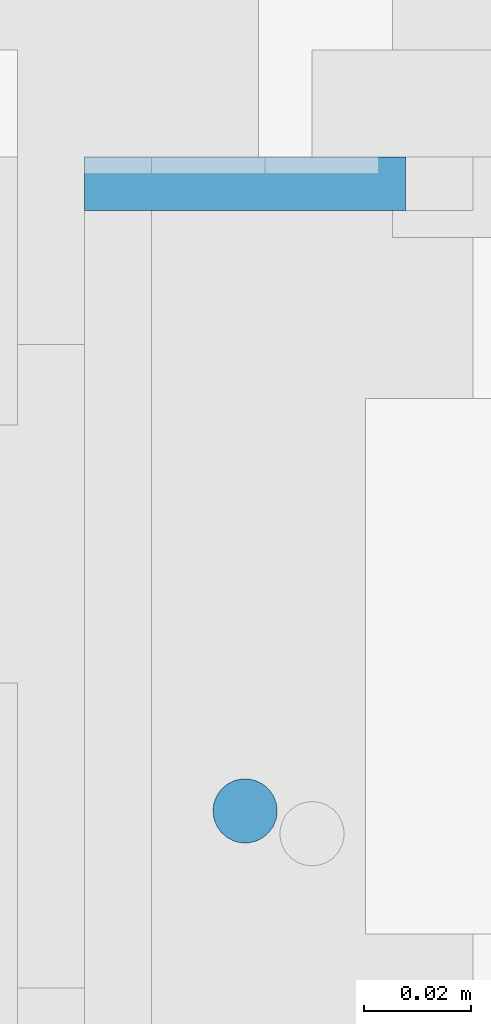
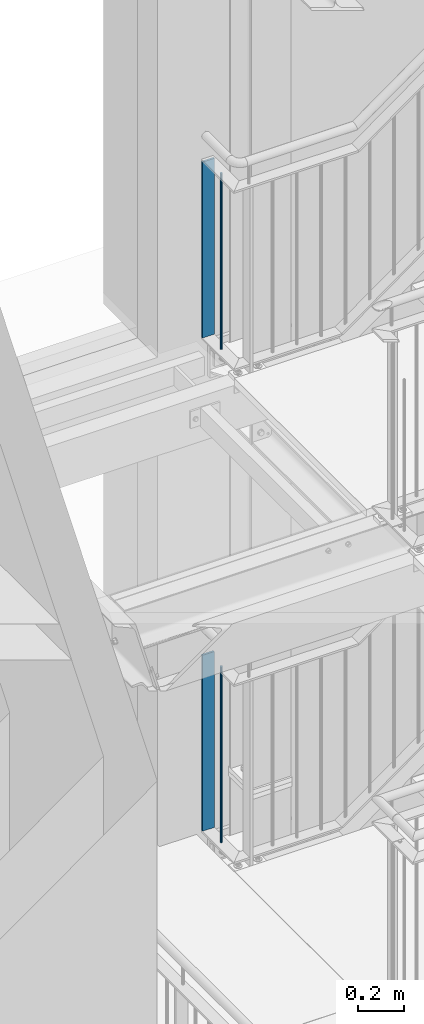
# One storey, part 65 of 831: 4 columns.
"""IFC2X3 building model written with IfcOpenShell, lengths in millimetres."""

import ifcopenshell
import ifcopenshell.guid

model = None  # the IFC model being written
_history = None  # IfcOwnerHistory: only IFC2X3 demands one
_inside = {}  # id of a spatial element -> (the spatial element, [elements in it])
_under = {}  # id of a project, library or spatial element -> (it, [spatial elements below it])
_declared = {}  # id of a project -> (the project, [libraries it declares])
_typed = {}  # id of a type object -> (the type object, [elements of that type])
_made_of = {}  # id of a material, layer set ... -> (it, [elements and type objects made of it])


def new_model(schema):
    """Start an empty IFC model of exactly this schema.

    Asked for "IFC4X3", IfcOpenShell would pick the latest addendum, in which some entities
    have other attributes; the version numbers below select the first issue.
    IFC2X3 requires an IfcOwnerHistory on every rooted entity: one is made here for all.
    """
    global model, _history
    if schema == "IFC4X3":
        model = ifcopenshell.file(schema_version=(4, 3, 0, 0))
    else:
        model = ifcopenshell.file(schema=schema)
    _inside.clear()
    _under.clear()
    _declared.clear()
    _typed.clear()
    _made_of.clear()
    _history = None
    if model.schema == "IFC2X3":
        org = make("IfcOrganization", Name="unknown")
        user = make(
            "IfcPersonAndOrganization",
            ThePerson=make("IfcPerson", FamilyName="unknown"),
            TheOrganization=org,
        )
        app = make(
            "IfcApplication",
            ApplicationDeveloper=org,
            Version="unknown",
            ApplicationFullName="unknown",
            ApplicationIdentifier="unknown",
        )
        _history = make(
            "IfcOwnerHistory",
            OwningUser=user,
            OwningApplication=app,
            ChangeAction="ADDED",
            CreationDate=0,
        )
    return model


def make(cls, **values):
    """One entity of the class cls with the attributes given. An attribute that is None is left unset."""
    return model.create_entity(
        cls, **{name: value for name, value in values.items() if value is not None}
    )


def entity(cls, *values):
    """Any entity or typed value of the class cls, its attributes in the order of the schema. None: left unset."""
    e = model.create_entity(cls)
    for i, value in enumerate(values):
        if value is not None:
            e[i] = value
    return e


def rooted(cls, **values):
    """An entity with a GlobalId (a new one), such as an element, a storey or a relation."""
    return make(cls, GlobalId=ifcopenshell.guid.new(), OwnerHistory=_history, **values)


def si_unit(unit_type, name, prefix=None):
    """IfcSIUnit, for example si_unit("LENGTHUNIT", "METRE", prefix="MILLI")."""
    return make("IfcSIUnit", UnitType=unit_type, Prefix=prefix, Name=name)


def converted_unit(unit_type, name, factor, base, dimensions=None, offset=None):
    """IfcConversionBasedUnit, such as the inch: factor (a typed value) times the base unit."""
    return make(
        "IfcConversionBasedUnit"
        if offset is None
        else "IfcConversionBasedUnitWithOffset",
        ConversionOffset=offset,
        Dimensions=None
        if dimensions is None
        else entity("IfcDimensionalExponents", *dimensions),
        UnitType=unit_type,
        Name=name,
        ConversionFactor=make(
            "IfcMeasureWithUnit", ValueComponent=factor, UnitComponent=base
        ),
    )


def assignment(units):
    """IfcUnitAssignment: the units of a project."""
    return None if units is None else make("IfcUnitAssignment", Units=units)


def point(xyz):
    """IfcCartesianPoint."""
    return None if xyz is None else make("IfcCartesianPoint", Coordinates=xyz)


def direction(xyz):
    """IfcDirection."""
    return None if xyz is None else make("IfcDirection", DirectionRatios=xyz)


def frame(location, z_axis=None, x_axis=None):
    """IfcAxis2Placement3D, a coordinate frame: its origin and axes. An axis left out is left unset."""
    return make(
        "IfcAxis2Placement3D",
        Location=point(location),
        Axis=direction(z_axis),
        RefDirection=direction(x_axis),
    )


def frame_2d(location, x_axis=None):
    """IfcAxis2Placement2D, a coordinate frame in the plane: its origin and x axis."""
    return make(
        "IfcAxis2Placement2D", Location=point(location), RefDirection=direction(x_axis)
    )


def origin():
    """The frame at (0, 0, 0) with its axes left unset."""
    return frame((0.0, 0.0, 0.0))


def origin_with_axes():
    """The frame at (0, 0, 0) with the z axis (0, 0, 1) and the x axis (1, 0, 0) written out."""
    return frame((0.0, 0.0, 0.0), z_axis=(0.0, 0.0, 1.0), x_axis=(1.0, 0.0, 0.0))


def origin_2d():
    """The frame at (0, 0) in the plane with its x axis left unset."""
    return frame_2d((0.0, 0.0))


def place(relative_to, where):
    """IfcLocalPlacement: puts the frame where relative to a parent placement (None: the world)."""
    return make(
        "IfcLocalPlacement", PlacementRelTo=relative_to, RelativePlacement=where
    )


def context(
    kind, dimensions, precision=None, world=None, true_north=None, identifier=None
):
    """IfcGeometricRepresentationContext, for example the 3D "Model" context."""
    return make(
        "IfcGeometricRepresentationContext",
        ContextIdentifier=identifier,
        ContextType=kind,
        CoordinateSpaceDimension=dimensions,
        Precision=precision,
        WorldCoordinateSystem=world,
        TrueNorth=true_north,
    )


def project(units=None, contexts=None):
    """IfcProject with its units and contexts."""
    return rooted(
        "IfcProject",
        Name="project",
        RepresentationContexts=contexts,
        UnitsInContext=assignment(units),
    )


def spatial(cls, under=None, at=None, **own):
    """A site, building, storey or space (cls), placed at a placement, below another one or the project."""
    s = rooted(cls, ObjectPlacement=at, **own)
    if under is not None:
        _under.setdefault(under.id(), (under, []))[1].append(s)
    return s


def profile(cls, at=None, kind="AREA", **sizes):
    """A parametric profile (cls). Its sizes go by their IFC names, for example OverallWidth=200.0."""
    return make(cls, ProfileType=kind, Position=at, **sizes)


def rectangle(**sizes):
    """IfcRectangleProfileDef."""
    return profile("IfcRectangleProfileDef", **sizes)


def circle(**sizes):
    """IfcCircleProfileDef."""
    return profile("IfcCircleProfileDef", **sizes)


def extrude(swept, where, along, depth):
    """IfcExtrudedAreaSolid: the profile swept, set in the frame where, extruded along a direction by depth."""
    return make(
        "IfcExtrudedAreaSolid",
        SweptArea=swept,
        Position=where,
        ExtrudedDirection=direction(along),
        Depth=depth,
    )


def clip(a, b, op="DIFFERENCE"):
    """IfcBooleanClippingResult: the solid a cut by the half space b."""
    return make(
        "IfcBooleanClippingResult", Operator=op, FirstOperand=a, SecondOperand=b
    )


def halfspace(plane, agree):
    """IfcHalfSpaceSolid: all space on one side of the plane z = 0 of the frame plane."""
    return make(
        "IfcHalfSpaceSolid",
        BaseSurface=make("IfcPlane", Position=plane),
        AgreementFlag=agree,
    )


def shape(context_of_items, identifier, shape_type, items):
    """IfcShapeRepresentation: the items that make up one representation, for example the "Body"."""
    return make(
        "IfcShapeRepresentation",
        ContextOfItems=context_of_items,
        RepresentationIdentifier=identifier,
        RepresentationType=shape_type,
        Items=items,
    )


def material(Name=None, Category=None):
    """IfcMaterial."""
    return make("IfcMaterial", Name=Name, Category=Category)


def made_of(thing, what):
    """Note that an element or type object is made of a material, layer set ...; save() writes the relation."""
    if what is not None:
        _made_of.setdefault(what.id(), (what, []))[1].append(thing)
    return thing


def element(
    cls,
    number,
    at=None,
    inside=None,
    cuts=None,
    type_object=None,
    material=None,
    context=None,
    identifier="Body",
    shape_type=None,
    held_by="IfcProductDefinitionShape",
    body=None,
    shapes=None,
    **own,
):
    """One element of the class cls, such as IfcWall. Its Tag is "e" and its number.

    at: its placement. inside: the storey or other place that contains it. cuts: it is an
    opening in that element (IfcRelVoidsElement). A single representation is given by context,
    identifier, shape_type and body (its items); several are given by shapes. held_by: the class
    of the entity that holds the representations. save() writes the other relations.
    """
    e = rooted(cls, Tag="e%d" % number, ObjectPlacement=at, **own)
    if body is not None:
        shapes = [shape(context, identifier, shape_type, body)]
    if shapes is not None:
        e.Representation = make(held_by, Representations=shapes)
    if inside is not None:
        _inside.setdefault(inside.id(), (inside, []))[1].append(e)
    if cuts is not None:
        rooted(
            "IfcRelVoidsElement", RelatingBuildingElement=cuts, RelatedOpeningElement=e
        )
    if type_object is not None:
        _typed.setdefault(type_object.id(), (type_object, []))[1].append(e)
    return made_of(e, material)


def aggregate(whole, parts):
    """IfcRelAggregates: a whole, such as a stair, and the parts it consists of."""
    return rooted("IfcRelAggregates", RelatingObject=whole, RelatedObjects=parts)


def save(model, path):
    """Write the relations noted so far, then the file.

    IfcRelAggregates (storeys below a building ...), IfcRelContainedInSpatialStructure (elements
    in a storey), IfcRelDefinesByType, IfcRelAssociatesMaterial and IfcRelDeclares: one each for
    every whole, place, type object, material and project.
    """
    for whole, parts in _under.values():
        aggregate(whole, parts)
    for where, things in _inside.values():
        rooted(
            "IfcRelContainedInSpatialStructure",
            RelatedElements=things,
            RelatingStructure=where,
        )
    for kind, things in _typed.values():
        rooted("IfcRelDefinesByType", RelatedObjects=things, RelatingType=kind)
    for what, things in _made_of.values():
        rooted("IfcRelAssociatesMaterial", RelatedObjects=things, RelatingMaterial=what)
    for by, libraries in _declared.values():
        rooted("IfcRelDeclares", RelatingContext=by, RelatedDefinitions=libraries)
    model.write(path)


model = new_model("IFC2X3")

# Units and contexts
model_context = context("Model", 3, precision=1e-09, world=origin_with_axes())
ifc_project = project(units=[si_unit("LENGTHUNIT", "METRE", prefix="MILLI"), si_unit("AREAUNIT", "SQUARE_METRE"), si_unit("VOLUMEUNIT", "CUBIC_METRE"), converted_unit("PLANEANGLEUNIT", "DEGREE", entity("IfcPlaneAngleMeasure", 0.01745329), si_unit("PLANEANGLEUNIT", "RADIAN"), dimensions=[0, 0, 0, 0, 0, 0, 0])], contexts=[model_context])

# Site, building, storey
site_placement = place(None, origin_with_axes())
site = spatial("IfcSite", under=ifc_project, at=site_placement, Name="Site", CompositionType="ELEMENT")
building_placement = place(site_placement, origin_with_axes())
building = spatial("IfcBuilding", under=site, at=building_placement, Name="Struktur 1", CompositionType="ELEMENT")
storey_placement = place(building_placement, origin_with_axes())
storey = spatial("IfcBuildingStorey", under=building, at=storey_placement, Name="Default Storey", CompositionType="ELEMENT", Elevation=0.0)

# Columns
ifc_material = material(Name="S235JR")
column_1_placement = place(None, frame((4644.213402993, 7606.736971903, 10022.0), z_axis=(0.0, 0.0, -1.0), x_axis=(0.0, -1.0, 0.0)))
element("IfcColumn", 1, at=column_1_placement, inside=storey, material=ifc_material, Name="Railing_Kneerail_Landing#0", ObjectType="Railing_Kneerail_Landing#0", context=model_context, shape_type="SweptSolid", body=[
    extrude(rectangle(XDim=10.0, YDim=60.0, at=origin_2d()), origin(), (0.0, 0.0, -1.0), 938.8),
])
column_2_placement = place(None, frame((4644.213402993, 7489.736971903, 10974.285281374), z_axis=(0.0, 0.0, 1.0), x_axis=(1.0, 0.0, 0.0)))
element("IfcColumn", 2, at=column_2_placement, inside=storey, material=ifc_material, Name="Railing_Picket_Landing#0", ObjectType="Railing_Picket_Landing#0", context=model_context, shape_type="Clipping", body=[
    clip(clip(extrude(circle(Radius=6.0, at=origin_2d()), origin(), (0.0, 0.0, -1.0), 965.770562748), halfspace(frame((-4644.213402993, -7489.736971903, -13.486281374), z_axis=(0.0, 0.0, -1.0), x_axis=(-1.0, 0.0, 0.0)), True)), halfspace(frame((-4644.213402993, -7489.736971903, -952.284281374), z_axis=(0.0, 0.0, 1.0), x_axis=(1.0, 0.0, 0.0)), True)),
])
column_3_placement = place(None, frame((4644.213402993, 7606.736971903, 7390.0), z_axis=(0.0, 0.0, -1.0), x_axis=(0.0, -1.0, 0.0)))
element("IfcColumn", 3, at=column_3_placement, inside=storey, material=ifc_material, Name="Railing_Kneerail_Landing#0", ObjectType="Railing_Kneerail_Landing#0", context=model_context, shape_type="SweptSolid", body=[
    extrude(rectangle(XDim=10.0, YDim=60.0, at=origin_2d()), origin(), (0.0, 0.0, -1.0), 938.8),
])
column_4_placement = place(None, frame((4644.213402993, 7489.736971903, 8342.285281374), z_axis=(0.0, 0.0, 1.0), x_axis=(1.0, 0.0, 0.0)))
element("IfcColumn", 4, at=column_4_placement, inside=storey, material=ifc_material, Name="Railing_Picket_Landing#0", ObjectType="Railing_Picket_Landing#0", context=model_context, shape_type="Clipping", body=[
    clip(clip(extrude(circle(Radius=6.0, at=origin_2d()), origin(), (0.0, 0.0, -1.0), 965.770562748), halfspace(frame((-4644.213402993, -7489.736971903, -13.486281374), z_axis=(0.0, 0.0, -1.0), x_axis=(-1.0, 0.0, 0.0)), True)), halfspace(frame((-4644.213402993, -7489.736971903, -952.284281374), z_axis=(0.0, 0.0, 1.0), x_axis=(1.0, 0.0, 0.0)), True)),
])

save(model, "model.ifc")
